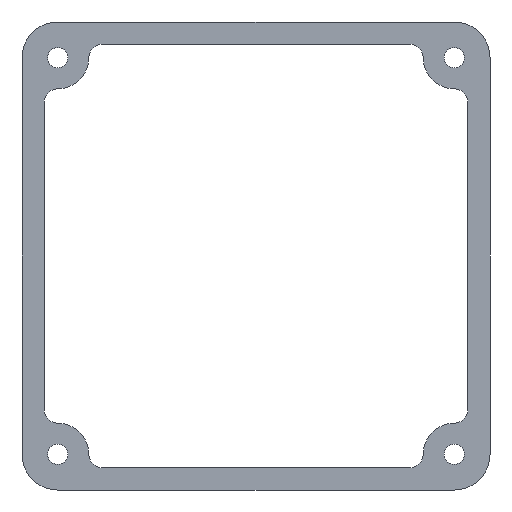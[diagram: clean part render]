
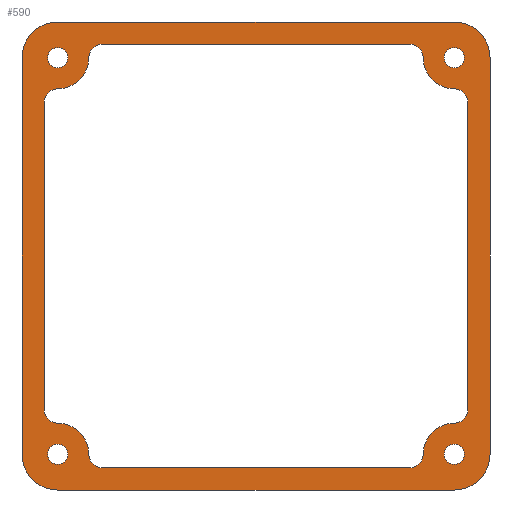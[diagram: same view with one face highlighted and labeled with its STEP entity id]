
A CAD part, front view. The second image highlights one B-rep face of the part: STEP entity #590.
In plain terms, the highlighted planar face has unit normal (0, -1, 0).
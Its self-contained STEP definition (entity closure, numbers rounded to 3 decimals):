
#20=FACE_BOUND('',#100,.T.);
#21=FACE_BOUND('',#101,.T.);
#22=FACE_BOUND('',#102,.T.);
#23=FACE_BOUND('',#103,.T.);
#24=FACE_BOUND('',#104,.T.);
#34=PLANE('',#683);
#64=FACE_OUTER_BOUND('',#99,.T.);
#99=EDGE_LOOP('',(#513,#514,#515,#516,#517,#518,#519,#520));
#100=EDGE_LOOP('',(#521));
#101=EDGE_LOOP('',(#522));
#102=EDGE_LOOP('',(#523));
#103=EDGE_LOOP('',(#524));
#104=EDGE_LOOP('',(#525,#526,#527,#528,#529,#530,#531,#532,#533,#534,#535,
#536,#537,#538,#539,#540));
#126=LINE('',#981,#170);
#128=LINE('',#984,#172);
#138=LINE('',#1013,#182);
#141=LINE('',#1021,#185);
#144=LINE('',#1029,#188);
#146=LINE('',#1035,#190);
#147=LINE('',#1037,#191);
#148=LINE('',#1039,#192);
#170=VECTOR('',#805,10.);
#172=VECTOR('',#809,10.);
#182=VECTOR('',#835,10.);
#185=VECTOR('',#844,10.);
#188=VECTOR('',#853,10.);
#190=VECTOR('',#861,10.);
#191=VECTOR('',#864,10.);
#192=VECTOR('',#867,10.);
#194=CIRCLE('',#616,2.25);
#196=CIRCLE('',#619,2.25);
#198=CIRCLE('',#622,2.25);
#200=CIRCLE('',#625,2.25);
#201=CIRCLE('',#627,3.);
#203=CIRCLE('',#630,7.);
#206=CIRCLE('',#634,3.);
#208=CIRCLE('',#637,3.);
#210=CIRCLE('',#640,7.);
#211=CIRCLE('',#642,3.);
#214=CIRCLE('',#646,3.);
#216=CIRCLE('',#649,7.);
#217=CIRCLE('',#651,3.);
#219=CIRCLE('',#654,3.);
#221=CIRCLE('',#657,7.);
#224=CIRCLE('',#661,3.);
#229=CIRCLE('',#670,8.);
#230=CIRCLE('',#673,8.);
#231=CIRCLE('',#676,8.);
#232=CIRCLE('',#679,8.);
#234=VERTEX_POINT('',#874);
#236=VERTEX_POINT('',#880);
#238=VERTEX_POINT('',#886);
#240=VERTEX_POINT('',#892);
#241=VERTEX_POINT('',#896);
#242=VERTEX_POINT('',#897);
#245=VERTEX_POINT('',#905);
#248=VERTEX_POINT('',#913);
#251=VERTEX_POINT('',#920);
#252=VERTEX_POINT('',#922);
#254=VERTEX_POINT('',#928);
#255=VERTEX_POINT('',#932);
#259=VERTEX_POINT('',#941);
#260=VERTEX_POINT('',#943);
#262=VERTEX_POINT('',#949);
#263=VERTEX_POINT('',#953);
#265=VERTEX_POINT('',#959);
#266=VERTEX_POINT('',#960);
#269=VERTEX_POINT('',#968);
#272=VERTEX_POINT('',#976);
#281=VERTEX_POINT('',#1005);
#282=VERTEX_POINT('',#1007);
#283=VERTEX_POINT('',#1011);
#284=VERTEX_POINT('',#1015);
#285=VERTEX_POINT('',#1019);
#286=VERTEX_POINT('',#1023);
#287=VERTEX_POINT('',#1027);
#288=VERTEX_POINT('',#1031);
#291=EDGE_CURVE('',#234,#234,#194,.T.);
#294=EDGE_CURVE('',#236,#236,#196,.T.);
#297=EDGE_CURVE('',#238,#238,#198,.T.);
#300=EDGE_CURVE('',#240,#240,#200,.T.);
#301=EDGE_CURVE('',#241,#242,#201,.T.);
#305=EDGE_CURVE('',#245,#242,#203,.T.);
#309=EDGE_CURVE('',#245,#248,#206,.T.);
#313=EDGE_CURVE('',#251,#252,#208,.T.);
#317=EDGE_CURVE('',#251,#254,#210,.T.);
#318=EDGE_CURVE('',#255,#254,#211,.T.);
#323=EDGE_CURVE('',#259,#260,#214,.T.);
#327=EDGE_CURVE('',#259,#262,#216,.T.);
#328=EDGE_CURVE('',#263,#262,#217,.T.);
#331=EDGE_CURVE('',#265,#266,#219,.T.);
#335=EDGE_CURVE('',#269,#266,#221,.T.);
#339=EDGE_CURVE('',#269,#272,#224,.T.);
#342=EDGE_CURVE('',#241,#260,#126,.T.);
#344=EDGE_CURVE('',#263,#272,#128,.T.);
#356=EDGE_CURVE('',#281,#282,#229,.T.);
#359=EDGE_CURVE('',#283,#281,#138,.T.);
#361=EDGE_CURVE('',#284,#283,#230,.T.);
#363=EDGE_CURVE('',#285,#284,#141,.T.);
#365=EDGE_CURVE('',#286,#285,#231,.T.);
#367=EDGE_CURVE('',#287,#286,#144,.T.);
#369=EDGE_CURVE('',#288,#287,#232,.T.);
#370=EDGE_CURVE('',#265,#252,#146,.T.);
#371=EDGE_CURVE('',#255,#248,#147,.T.);
#372=EDGE_CURVE('',#282,#288,#148,.T.);
#513=ORIENTED_EDGE('',*,*,#356,.F.);
#514=ORIENTED_EDGE('',*,*,#359,.F.);
#515=ORIENTED_EDGE('',*,*,#361,.F.);
#516=ORIENTED_EDGE('',*,*,#363,.F.);
#517=ORIENTED_EDGE('',*,*,#365,.F.);
#518=ORIENTED_EDGE('',*,*,#367,.F.);
#519=ORIENTED_EDGE('',*,*,#369,.F.);
#520=ORIENTED_EDGE('',*,*,#372,.F.);
#521=ORIENTED_EDGE('',*,*,#291,.T.);
#522=ORIENTED_EDGE('',*,*,#294,.T.);
#523=ORIENTED_EDGE('',*,*,#297,.T.);
#524=ORIENTED_EDGE('',*,*,#300,.T.);
#525=ORIENTED_EDGE('',*,*,#342,.T.);
#526=ORIENTED_EDGE('',*,*,#323,.F.);
#527=ORIENTED_EDGE('',*,*,#327,.T.);
#528=ORIENTED_EDGE('',*,*,#328,.F.);
#529=ORIENTED_EDGE('',*,*,#344,.T.);
#530=ORIENTED_EDGE('',*,*,#339,.F.);
#531=ORIENTED_EDGE('',*,*,#335,.T.);
#532=ORIENTED_EDGE('',*,*,#331,.F.);
#533=ORIENTED_EDGE('',*,*,#370,.T.);
#534=ORIENTED_EDGE('',*,*,#313,.F.);
#535=ORIENTED_EDGE('',*,*,#317,.T.);
#536=ORIENTED_EDGE('',*,*,#318,.F.);
#537=ORIENTED_EDGE('',*,*,#371,.T.);
#538=ORIENTED_EDGE('',*,*,#309,.F.);
#539=ORIENTED_EDGE('',*,*,#305,.T.);
#540=ORIENTED_EDGE('',*,*,#301,.F.);
#590=ADVANCED_FACE('',(#64,#20,#21,#22,#23,#24),#34,.F.);
#616=AXIS2_PLACEMENT_3D('',#876,#691,#692);
#619=AXIS2_PLACEMENT_3D('',#882,#698,#699);
#622=AXIS2_PLACEMENT_3D('',#888,#705,#706);
#625=AXIS2_PLACEMENT_3D('',#894,#712,#713);
#627=AXIS2_PLACEMENT_3D('',#898,#716,#717);
#630=AXIS2_PLACEMENT_3D('',#906,#724,#725);
#634=AXIS2_PLACEMENT_3D('',#914,#733,#734);
#637=AXIS2_PLACEMENT_3D('',#923,#741,#742);
#640=AXIS2_PLACEMENT_3D('',#930,#749,#750);
#642=AXIS2_PLACEMENT_3D('',#933,#753,#754);
#646=AXIS2_PLACEMENT_3D('',#944,#763,#764);
#649=AXIS2_PLACEMENT_3D('',#951,#771,#772);
#651=AXIS2_PLACEMENT_3D('',#954,#775,#776);
#654=AXIS2_PLACEMENT_3D('',#961,#782,#783);
#657=AXIS2_PLACEMENT_3D('',#969,#790,#791);
#661=AXIS2_PLACEMENT_3D('',#977,#799,#800);
#670=AXIS2_PLACEMENT_3D('',#1008,#829,#830);
#673=AXIS2_PLACEMENT_3D('',#1017,#839,#840);
#676=AXIS2_PLACEMENT_3D('',#1025,#848,#849);
#679=AXIS2_PLACEMENT_3D('',#1033,#857,#858);
#683=AXIS2_PLACEMENT_3D('',#1040,#868,#869);
#691=DIRECTION('center_axis',(0.,1.,0.));
#692=DIRECTION('ref_axis',(1.,0.,0.));
#698=DIRECTION('center_axis',(0.,1.,0.));
#699=DIRECTION('ref_axis',(1.,0.,0.));
#705=DIRECTION('center_axis',(0.,1.,0.));
#706=DIRECTION('ref_axis',(1.,0.,0.));
#712=DIRECTION('center_axis',(0.,1.,0.));
#713=DIRECTION('ref_axis',(1.,0.,0.));
#716=DIRECTION('center_axis',(0.,-1.,0.));
#717=DIRECTION('ref_axis',(0.707,0.,0.707));
#724=DIRECTION('center_axis',(0.,-1.,0.));
#725=DIRECTION('ref_axis',(-1.,0.,0.));
#733=DIRECTION('center_axis',(0.,-1.,0.));
#734=DIRECTION('ref_axis',(0.707,0.,0.707));
#741=DIRECTION('center_axis',(0.,-1.,0.));
#742=DIRECTION('ref_axis',(-0.707,0.,0.707));
#749=DIRECTION('center_axis',(0.,-1.,0.));
#750=DIRECTION('ref_axis',(-1.,0.,0.));
#753=DIRECTION('center_axis',(0.,-1.,0.));
#754=DIRECTION('ref_axis',(-0.707,0.,0.707));
#763=DIRECTION('center_axis',(0.,-1.,0.));
#764=DIRECTION('ref_axis',(0.707,0.,-0.707));
#771=DIRECTION('center_axis',(0.,-1.,0.));
#772=DIRECTION('ref_axis',(-1.,0.,0.));
#775=DIRECTION('center_axis',(0.,-1.,0.));
#776=DIRECTION('ref_axis',(0.707,0.,-0.707));
#782=DIRECTION('center_axis',(0.,-1.,0.));
#783=DIRECTION('ref_axis',(-0.707,0.,-0.707));
#790=DIRECTION('center_axis',(0.,-1.,0.));
#791=DIRECTION('ref_axis',(-1.,0.,0.));
#799=DIRECTION('center_axis',(0.,-1.,0.));
#800=DIRECTION('ref_axis',(-0.707,0.,-0.707));
#805=DIRECTION('',(0.,0.,-1.));
#809=DIRECTION('',(-1.,0.,0.));
#829=DIRECTION('center_axis',(0.,1.,0.));
#830=DIRECTION('ref_axis',(-0.707,0.,-0.707));
#835=DIRECTION('',(-1.,0.,0.));
#839=DIRECTION('center_axis',(0.,1.,0.));
#840=DIRECTION('ref_axis',(0.707,0.,-0.707));
#844=DIRECTION('',(0.,0.,-1.));
#848=DIRECTION('center_axis',(0.,1.,0.));
#849=DIRECTION('ref_axis',(0.707,0.,0.707));
#853=DIRECTION('',(1.,0.,0.));
#857=DIRECTION('center_axis',(0.,1.,0.));
#858=DIRECTION('ref_axis',(-0.707,0.,0.707));
#861=DIRECTION('',(0.,0.,1.));
#864=DIRECTION('',(1.,0.,0.));
#867=DIRECTION('',(0.,0.,1.));
#868=DIRECTION('center_axis',(0.,1.,0.));
#869=DIRECTION('ref_axis',(0.,0.,1.));
#874=CARTESIAN_POINT('',(42.25,0.,44.5));
#876=CARTESIAN_POINT('Origin',(44.5,0.,44.5));
#880=CARTESIAN_POINT('',(-46.75,0.,-44.5));
#882=CARTESIAN_POINT('Origin',(-44.5,0.,-44.5));
#886=CARTESIAN_POINT('',(42.25,0.,-44.5));
#888=CARTESIAN_POINT('Origin',(44.5,0.,-44.5));
#892=CARTESIAN_POINT('',(-46.75,0.,44.5));
#894=CARTESIAN_POINT('Origin',(-44.5,0.,44.5));
#896=CARTESIAN_POINT('',(47.5,0.,34.5));
#897=CARTESIAN_POINT('',(44.5,0.,37.5));
#898=CARTESIAN_POINT('Origin',(44.5,0.,34.5));
#905=CARTESIAN_POINT('',(37.5,0.,44.5));
#906=CARTESIAN_POINT('Origin',(44.5,0.,44.5));
#913=CARTESIAN_POINT('',(34.5,0.,47.5));
#914=CARTESIAN_POINT('Origin',(34.5,0.,44.5));
#920=CARTESIAN_POINT('',(-44.5,0.,37.5));
#922=CARTESIAN_POINT('',(-47.5,0.,34.5));
#923=CARTESIAN_POINT('Origin',(-44.5,0.,34.5));
#928=CARTESIAN_POINT('',(-37.5,0.,44.5));
#930=CARTESIAN_POINT('Origin',(-44.5,0.,44.5));
#932=CARTESIAN_POINT('',(-34.5,0.,47.5));
#933=CARTESIAN_POINT('Origin',(-34.5,0.,44.5));
#941=CARTESIAN_POINT('',(44.5,0.,-37.5));
#943=CARTESIAN_POINT('',(47.5,0.,-34.5));
#944=CARTESIAN_POINT('Origin',(44.5,0.,-34.5));
#949=CARTESIAN_POINT('',(37.5,0.,-44.5));
#951=CARTESIAN_POINT('Origin',(44.5,0.,-44.5));
#953=CARTESIAN_POINT('',(34.5,0.,-47.5));
#954=CARTESIAN_POINT('Origin',(34.5,0.,-44.5));
#959=CARTESIAN_POINT('',(-47.5,0.,-34.5));
#960=CARTESIAN_POINT('',(-44.5,0.,-37.5));
#961=CARTESIAN_POINT('Origin',(-44.5,0.,-34.5));
#968=CARTESIAN_POINT('',(-37.5,0.,-44.5));
#969=CARTESIAN_POINT('Origin',(-44.5,0.,-44.5));
#976=CARTESIAN_POINT('',(-34.5,0.,-47.5));
#977=CARTESIAN_POINT('Origin',(-34.5,0.,-44.5));
#981=CARTESIAN_POINT('',(47.5,0.,-23.75));
#984=CARTESIAN_POINT('',(-23.75,0.,-47.5));
#1005=CARTESIAN_POINT('',(-44.5,0.,-52.5));
#1007=CARTESIAN_POINT('',(-52.5,0.,-44.5));
#1008=CARTESIAN_POINT('Origin',(-44.5,0.,-44.5));
#1011=CARTESIAN_POINT('',(44.5,0.,-52.5));
#1013=CARTESIAN_POINT('',(52.5,0.,-52.5));
#1015=CARTESIAN_POINT('',(52.5,0.,-44.5));
#1017=CARTESIAN_POINT('Origin',(44.5,0.,-44.5));
#1019=CARTESIAN_POINT('',(52.5,0.,44.5));
#1021=CARTESIAN_POINT('',(52.5,0.,52.5));
#1023=CARTESIAN_POINT('',(44.5,0.,52.5));
#1025=CARTESIAN_POINT('Origin',(44.5,0.,44.5));
#1027=CARTESIAN_POINT('',(-44.5,0.,52.5));
#1029=CARTESIAN_POINT('',(-52.5,0.,52.5));
#1031=CARTESIAN_POINT('',(-52.5,0.,44.5));
#1033=CARTESIAN_POINT('Origin',(-44.5,0.,44.5));
#1035=CARTESIAN_POINT('',(-47.5,0.,23.75));
#1037=CARTESIAN_POINT('',(23.75,0.,47.5));
#1039=CARTESIAN_POINT('',(-52.5,0.,-52.5));
#1040=CARTESIAN_POINT('Origin',(0.,0.,0.));
